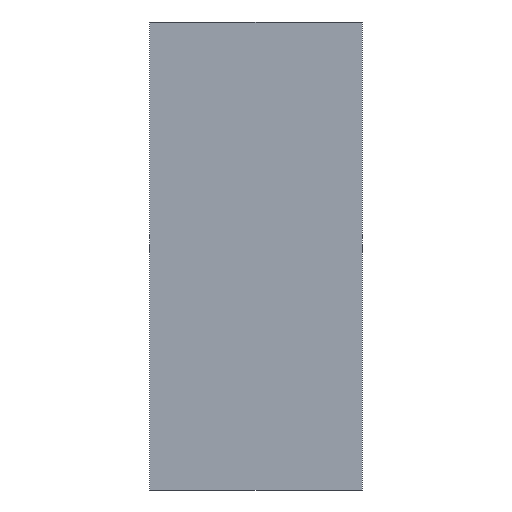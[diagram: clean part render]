
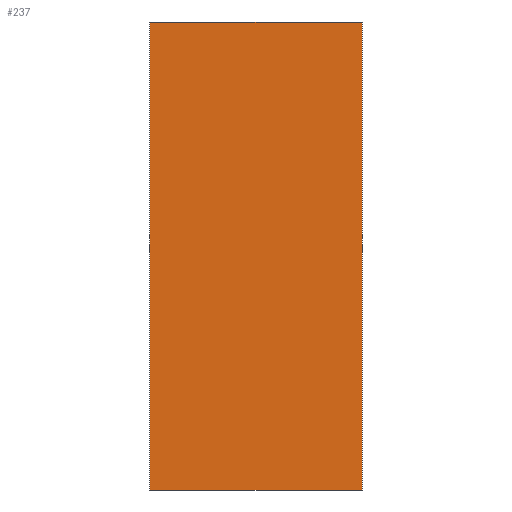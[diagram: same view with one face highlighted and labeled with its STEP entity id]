
A CAD part, front view. The second image highlights one B-rep face of the part: STEP entity #237.
In plain terms, the highlighted planar face has unit normal (0, -1, 0).
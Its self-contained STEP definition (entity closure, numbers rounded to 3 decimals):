
#21 = EDGE_CURVE('',#22,#24,#26,.T.);
#22 = VERTEX_POINT('',#23);
#23 = CARTESIAN_POINT('',(1745.,-1700.,2237.6));
#24 = VERTEX_POINT('',#25);
#25 = CARTESIAN_POINT('',(1745.,-1700.,2376.4));
#26 = SURFACE_CURVE('',#27,(#31,#43),.PCURVE_S1.);
#27 = LINE('',#28,#29);
#28 = CARTESIAN_POINT('',(1745.,-1700.,2237.6));
#29 = VECTOR('',#30,1.);
#30 = DIRECTION('',(0.,0.,1.));
#31 = PCURVE('',#32,#37);
#32 = PLANE('',#33);
#33 = AXIS2_PLACEMENT_3D('',#34,#35,#36);
#34 = CARTESIAN_POINT('',(1745.,-1700.,2237.6));
#35 = DIRECTION('',(1.,0.,-0.));
#36 = DIRECTION('',(0.,0.,1.));
#37 = DEFINITIONAL_REPRESENTATION('',(#38),#42);
#38 = LINE('',#39,#40);
#39 = CARTESIAN_POINT('',(0.,0.));
#40 = VECTOR('',#41,1.);
#41 = DIRECTION('',(1.,0.));
#42 = ( GEOMETRIC_REPRESENTATION_CONTEXT(2) 
PARAMETRIC_REPRESENTATION_CONTEXT() REPRESENTATION_CONTEXT('2D SPACE',''
  ) );
#43 = PCURVE('',#44,#49);
#44 = PLANE('',#45);
#45 = AXIS2_PLACEMENT_3D('',#46,#47,#48);
#46 = CARTESIAN_POINT('',(1745.,-1700.,2237.6));
#47 = DIRECTION('',(-0.,1.,0.));
#48 = DIRECTION('',(0.,0.,1.));
#49 = DEFINITIONAL_REPRESENTATION('',(#50),#54);
#50 = LINE('',#51,#52);
#51 = CARTESIAN_POINT('',(0.,0.));
#52 = VECTOR('',#53,1.);
#53 = DIRECTION('',(1.,0.));
#54 = ( GEOMETRIC_REPRESENTATION_CONTEXT(2) 
PARAMETRIC_REPRESENTATION_CONTEXT() REPRESENTATION_CONTEXT('2D SPACE',''
  ) );
#72 = PLANE('',#73);
#73 = AXIS2_PLACEMENT_3D('',#74,#75,#76);
#74 = CARTESIAN_POINT('',(1745.,-1700.,2237.6));
#75 = DIRECTION('',(0.,0.,1.));
#76 = DIRECTION('',(1.,0.,-0.));
#126 = PLANE('',#127);
#127 = AXIS2_PLACEMENT_3D('',#128,#129,#130);
#128 = CARTESIAN_POINT('',(1745.,-1700.,2376.4));
#129 = DIRECTION('',(0.,0.,1.));
#130 = DIRECTION('',(1.,0.,-0.));
#141 = EDGE_CURVE('',#142,#144,#146,.T.);
#142 = VERTEX_POINT('',#143);
#143 = CARTESIAN_POINT('',(1807.95,-1700.,2237.6));
#144 = VERTEX_POINT('',#145);
#145 = CARTESIAN_POINT('',(1807.95,-1700.,2376.4));
#146 = SURFACE_CURVE('',#147,(#151,#163),.PCURVE_S1.);
#147 = LINE('',#148,#149);
#148 = CARTESIAN_POINT('',(1807.95,-1700.,2237.6));
#149 = VECTOR('',#150,1.);
#150 = DIRECTION('',(0.,0.,1.));
#151 = PCURVE('',#152,#157);
#152 = PLANE('',#153);
#153 = AXIS2_PLACEMENT_3D('',#154,#155,#156);
#154 = CARTESIAN_POINT('',(1807.95,-1700.,2237.6));
#155 = DIRECTION('',(1.,0.,-0.));
#156 = DIRECTION('',(0.,0.,1.));
#157 = DEFINITIONAL_REPRESENTATION('',(#158),#162);
#158 = LINE('',#159,#160);
#159 = CARTESIAN_POINT('',(0.,0.));
#160 = VECTOR('',#161,1.);
#161 = DIRECTION('',(1.,0.));
#162 = ( GEOMETRIC_REPRESENTATION_CONTEXT(2) 
PARAMETRIC_REPRESENTATION_CONTEXT() REPRESENTATION_CONTEXT('2D SPACE',''
  ) );
#163 = PCURVE('',#44,#164);
#164 = DEFINITIONAL_REPRESENTATION('',(#165),#169);
#165 = LINE('',#166,#167);
#166 = CARTESIAN_POINT('',(0.,62.95));
#167 = VECTOR('',#168,1.);
#168 = DIRECTION('',(1.,0.));
#169 = ( GEOMETRIC_REPRESENTATION_CONTEXT(2) 
PARAMETRIC_REPRESENTATION_CONTEXT() REPRESENTATION_CONTEXT('2D SPACE',''
  ) );
#237 = ADVANCED_FACE('',(#238),#44,.F.);
#238 = FACE_BOUND('',#239,.F.);
#239 = EDGE_LOOP('',(#240,#261,#262,#283));
#240 = ORIENTED_EDGE('',*,*,#241,.F.);
#241 = EDGE_CURVE('',#22,#142,#242,.T.);
#242 = SURFACE_CURVE('',#243,(#247,#254),.PCURVE_S1.);
#243 = LINE('',#244,#245);
#244 = CARTESIAN_POINT('',(1745.,-1700.,2237.6));
#245 = VECTOR('',#246,1.);
#246 = DIRECTION('',(1.,0.,-0.));
#247 = PCURVE('',#44,#248);
#248 = DEFINITIONAL_REPRESENTATION('',(#249),#253);
#249 = LINE('',#250,#251);
#250 = CARTESIAN_POINT('',(0.,0.));
#251 = VECTOR('',#252,1.);
#252 = DIRECTION('',(0.,1.));
#253 = ( GEOMETRIC_REPRESENTATION_CONTEXT(2) 
PARAMETRIC_REPRESENTATION_CONTEXT() REPRESENTATION_CONTEXT('2D SPACE',''
  ) );
#254 = PCURVE('',#72,#255);
#255 = DEFINITIONAL_REPRESENTATION('',(#256),#260);
#256 = LINE('',#257,#258);
#257 = CARTESIAN_POINT('',(0.,0.));
#258 = VECTOR('',#259,1.);
#259 = DIRECTION('',(1.,0.));
#260 = ( GEOMETRIC_REPRESENTATION_CONTEXT(2) 
PARAMETRIC_REPRESENTATION_CONTEXT() REPRESENTATION_CONTEXT('2D SPACE',''
  ) );
#261 = ORIENTED_EDGE('',*,*,#21,.T.);
#262 = ORIENTED_EDGE('',*,*,#263,.T.);
#263 = EDGE_CURVE('',#24,#144,#264,.T.);
#264 = SURFACE_CURVE('',#265,(#269,#276),.PCURVE_S1.);
#265 = LINE('',#266,#267);
#266 = CARTESIAN_POINT('',(1745.,-1700.,2376.4));
#267 = VECTOR('',#268,1.);
#268 = DIRECTION('',(1.,0.,-0.));
#269 = PCURVE('',#44,#270);
#270 = DEFINITIONAL_REPRESENTATION('',(#271),#275);
#271 = LINE('',#272,#273);
#272 = CARTESIAN_POINT('',(138.8,0.));
#273 = VECTOR('',#274,1.);
#274 = DIRECTION('',(0.,1.));
#275 = ( GEOMETRIC_REPRESENTATION_CONTEXT(2) 
PARAMETRIC_REPRESENTATION_CONTEXT() REPRESENTATION_CONTEXT('2D SPACE',''
  ) );
#276 = PCURVE('',#126,#277);
#277 = DEFINITIONAL_REPRESENTATION('',(#278),#282);
#278 = LINE('',#279,#280);
#279 = CARTESIAN_POINT('',(0.,0.));
#280 = VECTOR('',#281,1.);
#281 = DIRECTION('',(1.,0.));
#282 = ( GEOMETRIC_REPRESENTATION_CONTEXT(2) 
PARAMETRIC_REPRESENTATION_CONTEXT() REPRESENTATION_CONTEXT('2D SPACE',''
  ) );
#283 = ORIENTED_EDGE('',*,*,#141,.F.);
